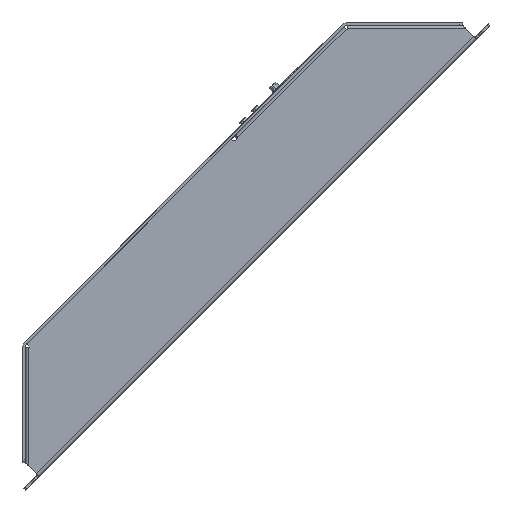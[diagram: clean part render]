
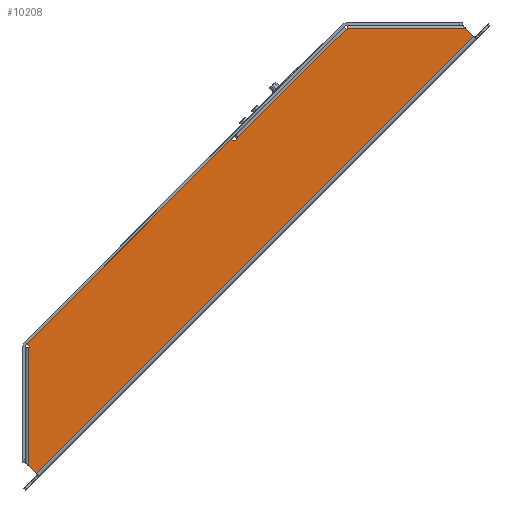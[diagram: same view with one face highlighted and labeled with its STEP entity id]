
A CAD part, left-side view. The second image highlights one B-rep face of the part: STEP entity #10208.
In plain terms, the highlighted planar face has unit normal (-1, 0, 0) as drawn and (1, 0, 0) by its records, which use the part's own axes.
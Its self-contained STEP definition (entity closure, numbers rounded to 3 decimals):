
#922 = EDGE_CURVE ( 'NONE', #7171, #7011, #16890, .T. ) ;
#943 = EDGE_CURVE ( 'NONE', #7020, #7084, #16923, .T. ) ;
#945 = EDGE_CURVE ( 'NONE', #7084, #7098, #16928, .T. ) ;
#956 = EDGE_CURVE ( 'NONE', #7105, #7171, #16942, .T. ) ;
#957 = EDGE_CURVE ( 'NONE', #7062, #7146, #16944, .T. ) ;
#1000 = EDGE_CURVE ( 'NONE', #7098, #6849, #17015, .T. ) ;
#1003 = EDGE_CURVE ( 'NONE', #7007, #7062, #17019, .T. ) ;
#1008 = EDGE_CURVE ( 'NONE', #7105, #6878, #17029, .T. ) ;
#1009 = EDGE_CURVE ( 'NONE', #7030, #6878, #17028, .T. ) ;
#1010 = EDGE_CURVE ( 'NONE', #6851, #7010, #17031, .T. ) ;
#1011 = EDGE_CURVE ( 'NONE', #7030, #7033, #17034, .T. ) ;
#1012 = EDGE_CURVE ( 'NONE', #7177, #7078, #17033, .T. ) ;
#1114 = EDGE_CURVE ( 'NONE', #6849, #7007, #17214, .T. ) ;
#2103 = EDGE_CURVE ( 'NONE', #7011, #7020, #14809, .T. ) ;
#2254 = EDGE_CURVE ( 'NONE', #6851, #7061, #14931, .T. ) ;
#2266 = EDGE_CURVE ( 'NONE', #7078, #7010, #14939, .T. ) ;
#2274 = EDGE_CURVE ( 'NONE', #7146, #7177, #14945, .T. ) ;
#2290 = EDGE_CURVE ( 'NONE', #7061, #7033, #14958, .T. ) ;
#2678 = CARTESIAN_POINT ( 'NONE',  ( -16.245, -249.67, 39.072 ) ) ;
#2680 = CARTESIAN_POINT ( 'NONE',  ( -16.245, 162.858, -25.441 ) ) ;
#2685 = CARTESIAN_POINT ( 'NONE',  ( -16.245, -61.011, -28.122 ) ) ;
#2687 = CARTESIAN_POINT ( 'NONE',  ( -16.245, 161.983, -28.622 ) ) ;
#2697 = CARTESIAN_POINT ( 'NONE',  ( -16.245, 163.211, -25.794 ) ) ;
#2699 = CARTESIAN_POINT ( 'NONE',  ( -16.245, -63.011, -25.622 ) ) ;
#2702 = CARTESIAN_POINT ( 'NONE',  ( -16.245, 228.078, 39.072 ) ) ;
#2711 = CARTESIAN_POINT ( 'NONE',  ( -16.245, -184.011, -26.122 ) ) ;
#2731 = CARTESIAN_POINT ( 'NONE',  ( -16.245, -61.011, -27.622 ) ) ;
#2805 = CARTESIAN_POINT ( 'NONE',  ( -16.245, -249.67, 48.023 ) ) ;
#2912 = CARTESIAN_POINT ( 'NONE',  ( -16.245, -64.011, -25.622 ) ) ;
#3033 = CARTESIAN_POINT ( 'NONE',  ( -16.245, -184.451, -25.441 ) ) ;
#3079 = CARTESIAN_POINT ( 'NONE',  ( -16.245, -184.011, -25.622 ) ) ;
#3152 = DIRECTION ( 'NONE',  ( 0., 0., 1. ) ) ;
#3154 = DIRECTION ( 'NONE',  ( -1., 0., 0. ) ) ;
#3156 = CARTESIAN_POINT ( 'NONE',  ( -16.245, -64.011, -27.622 ) ) ;
#3180 = DIRECTION ( 'NONE',  ( 0., 0., -1. ) ) ;
#3182 = CARTESIAN_POINT ( 'NONE',  ( -16.245, 228.078, 35.537 ) ) ;
#3200 = DIRECTION ( 'NONE',  ( 0., 0., 1. ) ) ;
#3202 = CARTESIAN_POINT ( 'NONE',  ( -16.245, -249.67, 50.523 ) ) ;
#3203 = CARTESIAN_POINT ( 'NONE',  ( -16.245, 162.478, -28.191 ) ) ;
#3221 = CARTESIAN_POINT ( 'NONE',  ( -16.245, -60.511, -28.622 ) ) ;
#3412 = DIRECTION ( 'NONE',  ( 0., -0.707, -0.707 ) ) ;
#3414 = CARTESIAN_POINT ( 'NONE',  ( -16.245, 228.078, 39.072 ) ) ;
#3417 = DIRECTION ( 'NONE',  ( 0., -1., 0. ) ) ;
#3419 = CARTESIAN_POINT ( 'NONE',  ( -16.245, 229.478, -26.122 ) ) ;
#3519 = DIRECTION ( 'NONE',  ( 0., -0.707, 0.707 ) ) ;
#3521 = CARTESIAN_POINT ( 'NONE',  ( -16.245, -184.804, -25.794 ) ) ;
#3529 = DIRECTION ( 'NONE',  ( 0., -0.707, -0.707 ) ) ;
#3530 = CARTESIAN_POINT ( 'NONE',  ( -16.245, -186.572, -27.562 ) ) ;
#3604 = CARTESIAN_POINT ( 'NONE',  ( -16.245, -65.334, -26.122 ) ) ;
#3633 = DIRECTION ( 'NONE',  ( 0., 0., 1. ) ) ;
#3634 = CARTESIAN_POINT ( 'NONE',  ( -16.245, -184.011, -28.622 ) ) ;
#4111 = CARTESIAN_POINT ( 'NONE',  ( -16.245, 228.078, 48.023 ) ) ;
#4304 = CARTESIAN_POINT ( 'NONE',  ( -16.245, -184.804, -25.794 ) ) ;
#4472 = CARTESIAN_POINT ( 'NONE',  ( -16.245, -63.011, -27.622 ) ) ;
#4473 = CARTESIAN_POINT ( 'NONE',  ( -16.245, -7.484, -28.622 ) ) ;
#4474 = DIRECTION ( 'NONE',  ( 0., 1., 0. ) ) ;
#4476 = DIRECTION ( 'NONE',  ( -1., 0., 0. ) ) ;
#4477 = DIRECTION ( 'NONE',  ( 0., -1., 0. ) ) ;
#4478 = CARTESIAN_POINT ( 'NONE',  ( -16.245, 162.419, -28.622 ) ) ;
#4479 = DIRECTION ( 'NONE',  ( 0., 0., 1. ) ) ;
#4480 = DIRECTION ( 'NONE',  ( 0., -0.137, -0.991 ) ) ;
#4551 = CARTESIAN_POINT ( 'NONE',  ( -16.245, -66.011, -25.622 ) ) ;
#5374 = DIRECTION ( 'NONE',  ( 0., 0., 1. ) ) ;
#5375 = DIRECTION ( 'NONE',  ( -1., 0., 0. ) ) ;
#5376 = CARTESIAN_POINT ( 'NONE',  ( -16.245, 229.478, -30.622 ) ) ;
#5377 = PLANE ( 'NONE',  #13001 ) ;
#6849 = VERTEX_POINT ( 'NONE', #2805 ) ;
#6851 = VERTEX_POINT ( 'NONE', #3221 ) ;
#6878 = VERTEX_POINT ( 'NONE', #2912 ) ;
#7007 = VERTEX_POINT ( 'NONE', #4111 ) ;
#7010 = VERTEX_POINT ( 'NONE', #2687 ) ;
#7011 = VERTEX_POINT ( 'NONE', #3079 ) ;
#7020 = VERTEX_POINT ( 'NONE', #3033 ) ;
#7030 = VERTEX_POINT ( 'NONE', #2699 ) ;
#7033 = VERTEX_POINT ( 'NONE', #2731 ) ;
#7061 = VERTEX_POINT ( 'NONE', #2685 ) ;
#7062 = VERTEX_POINT ( 'NONE', #2702 ) ;
#7078 = VERTEX_POINT ( 'NONE', #3203 ) ;
#7084 = VERTEX_POINT ( 'NONE', #4304 ) ;
#7098 = VERTEX_POINT ( 'NONE', #2678 ) ;
#7105 = VERTEX_POINT ( 'NONE', #3604 ) ;
#7146 = VERTEX_POINT ( 'NONE', #2697 ) ;
#7171 = VERTEX_POINT ( 'NONE', #2711 ) ;
#7177 = VERTEX_POINT ( 'NONE', #2680 ) ;
#8967 = EDGE_LOOP ( 'NONE', ( #18021, #18022, #18023, #18024, #18025, #18026, #18027, #18028, #18029, #18030, #18031, #18032, #18033, #18034, #18035, #18036, #18037, #18038 ) ) ;
#10208 = ADVANCED_FACE ( 'NONE', ( #11240 ), #5377, .F. ) ;
#11240 = FACE_OUTER_BOUND ( 'NONE', #8967, .T. ) ;
#13001 = AXIS2_PLACEMENT_3D ( 'NONE', #5376, #5375, #5374 ) ;
#13262 = AXIS2_PLACEMENT_3D ( 'NONE', #15275, #15274, #15273 ) ;
#13266 = AXIS2_PLACEMENT_3D ( 'NONE', #15291, #15290, #15289 ) ;
#13596 = AXIS2_PLACEMENT_3D ( 'NONE', #4472, #4476, #4479 ) ;
#13597 = AXIS2_PLACEMENT_3D ( 'NONE', #3156, #3154, #3152 ) ;
#14809 = LINE ( 'NONE', #15505, #14810 ) ;
#14810 = VECTOR ( 'NONE', #15503, 1000. ) ;
#14931 = CIRCLE ( 'NONE', #13266, 0.5 ) ;
#14939 = CIRCLE ( 'NONE', #13262, 0.5 ) ;
#14945 = LINE ( 'NONE', #15266, #14946 ) ;
#14946 = VECTOR ( 'NONE', #15265, 1000. ) ;
#14958 = LINE ( 'NONE', #15247, #14959 ) ;
#14959 = VECTOR ( 'NONE', #15246, 1000. ) ;
#15246 = DIRECTION ( 'NONE',  ( 0., 0., 1. ) ) ;
#15247 = CARTESIAN_POINT ( 'NONE',  ( -16.245, -61.011, -30.622 ) ) ;
#15265 = DIRECTION ( 'NONE',  ( 0., -0.707, 0.707 ) ) ;
#15266 = CARTESIAN_POINT ( 'NONE',  ( -16.245, 163.211, -25.794 ) ) ;
#15273 = DIRECTION ( 'NONE',  ( 0., 0., 1. ) ) ;
#15274 = DIRECTION ( 'NONE',  ( -1., 0., 0. ) ) ;
#15275 = CARTESIAN_POINT ( 'NONE',  ( -16.245, 161.983, -28.122 ) ) ;
#15289 = DIRECTION ( 'NONE',  ( 0., 0., 1. ) ) ;
#15290 = DIRECTION ( 'NONE',  ( -1., 0., 0. ) ) ;
#15291 = CARTESIAN_POINT ( 'NONE',  ( -16.245, -60.511, -28.122 ) ) ;
#15503 = DIRECTION ( 'NONE',  ( 0., -0.924, 0.383 ) ) ;
#15505 = CARTESIAN_POINT ( 'NONE',  ( -16.245, -184.011, -25.622 ) ) ;
#16890 = LINE ( 'NONE', #3634, #16891 ) ;
#16891 = VECTOR ( 'NONE', #3633, 1000. ) ;
#16923 = LINE ( 'NONE', #3530, #16925 ) ;
#16925 = VECTOR ( 'NONE', #3529, 1000. ) ;
#16928 = LINE ( 'NONE', #3521, #16929 ) ;
#16929 = VECTOR ( 'NONE', #3519, 1000. ) ;
#16942 = LINE ( 'NONE', #3419, #16943 ) ;
#16943 = VECTOR ( 'NONE', #3417, 1000. ) ;
#16944 = LINE ( 'NONE', #3414, #16945 ) ;
#16945 = VECTOR ( 'NONE', #3412, 1000. ) ;
#17015 = LINE ( 'NONE', #3202, #17016 ) ;
#17016 = VECTOR ( 'NONE', #3200, 1000. ) ;
#17019 = LINE ( 'NONE', #3182, #17020 ) ;
#17020 = VECTOR ( 'NONE', #3180, 1000. ) ;
#17028 = LINE ( 'NONE', #4551, #17030 ) ;
#17029 = CIRCLE ( 'NONE', #13597, 2. ) ;
#17030 = VECTOR ( 'NONE', #4477, 1000. ) ;
#17031 = LINE ( 'NONE', #4473, #17032 ) ;
#17032 = VECTOR ( 'NONE', #4474, 1000. ) ;
#17033 = LINE ( 'NONE', #4478, #17035 ) ;
#17034 = CIRCLE ( 'NONE', #13596, 2. ) ;
#17035 = VECTOR ( 'NONE', #4480, 1000. ) ;
#17214 = LINE ( 'NONE', #20558, #17215 ) ;
#17215 = VECTOR ( 'NONE', #20559, 1000. ) ;
#18021 = ORIENTED_EDGE ( 'NONE', *, *, #957, .F. ) ;
#18022 = ORIENTED_EDGE ( 'NONE', *, *, #1003, .F. ) ;
#18023 = ORIENTED_EDGE ( 'NONE', *, *, #1114, .F. ) ;
#18024 = ORIENTED_EDGE ( 'NONE', *, *, #1000, .F. ) ;
#18025 = ORIENTED_EDGE ( 'NONE', *, *, #945, .F. ) ;
#18026 = ORIENTED_EDGE ( 'NONE', *, *, #943, .F. ) ;
#18027 = ORIENTED_EDGE ( 'NONE', *, *, #2103, .F. ) ;
#18028 = ORIENTED_EDGE ( 'NONE', *, *, #922, .F. ) ;
#18029 = ORIENTED_EDGE ( 'NONE', *, *, #956, .F. ) ;
#18030 = ORIENTED_EDGE ( 'NONE', *, *, #1008, .T. ) ;
#18031 = ORIENTED_EDGE ( 'NONE', *, *, #1009, .F. ) ;
#18032 = ORIENTED_EDGE ( 'NONE', *, *, #1011, .T. ) ;
#18033 = ORIENTED_EDGE ( 'NONE', *, *, #2290, .F. ) ;
#18034 = ORIENTED_EDGE ( 'NONE', *, *, #2254, .F. ) ;
#18035 = ORIENTED_EDGE ( 'NONE', *, *, #1010, .T. ) ;
#18036 = ORIENTED_EDGE ( 'NONE', *, *, #2266, .F. ) ;
#18037 = ORIENTED_EDGE ( 'NONE', *, *, #1012, .F. ) ;
#18038 = ORIENTED_EDGE ( 'NONE', *, *, #2274, .F. ) ;
#20558 = CARTESIAN_POINT ( 'NONE',  ( -16.245, 229.478, 48.023 ) ) ;
#20559 = DIRECTION ( 'NONE',  ( 0., 1., 0. ) ) ;
